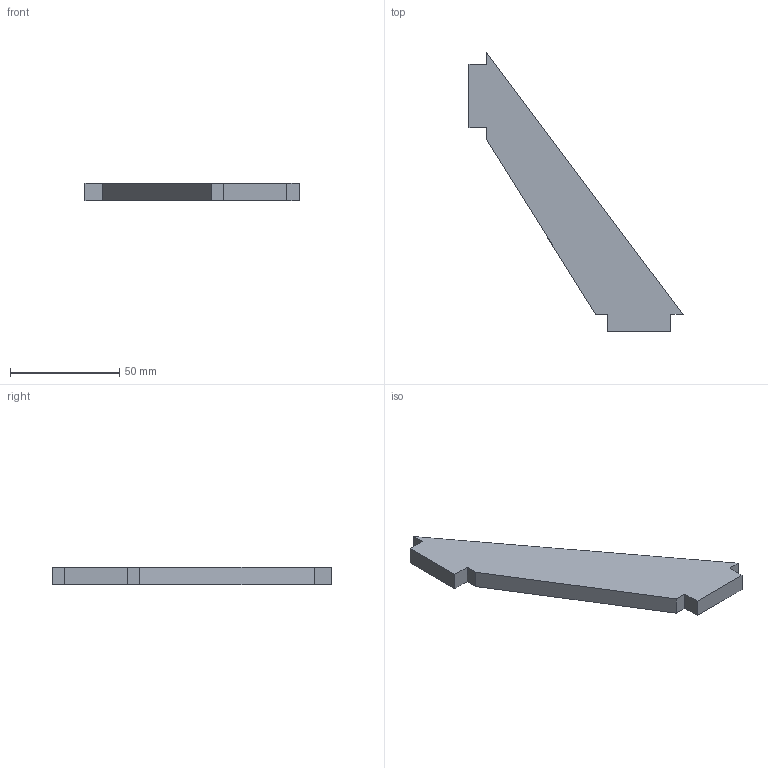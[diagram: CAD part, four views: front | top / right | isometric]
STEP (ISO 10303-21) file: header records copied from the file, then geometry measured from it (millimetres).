
FILE_DESCRIPTION(/* description */ (''),/* implementation_level */ '2;1');
FILE_NAME(/* name */ 'Holder_part_5c_ver_2.step',/* time_stamp */ '2026-07-24T14:35:04+02:00',/* author */ ('dariu'),/* organization */ (''),/* preprocessor_version */ 'ST-DEVELOPER v20.1',/* originating_system */ 'Autodesk Inventor 2026',/* authorisation */ '');
FILE_SCHEMA (('AUTOMOTIVE_DESIGN { 1 0 10303 214 3 1 1 }'));
Length unit declared in the file: millimetre
Products named in the file (1): Holder_part_5c_ver_2
Bounding box: 98 x 128 x 8 mm (x, y, z)
Volume: 30912 mm3; surface area: 10578.7 mm2
Topology: 1 solids, 1 shells, 14 faces, 36 edges, 24 vertices
Faces by surface type: plane 14
Entity records: 463 total; most frequent: CARTESIAN_POINT 75, ORIENTED_EDGE 72, DIRECTION 66, LINE 36, VECTOR 36, EDGE_CURVE 36, VERTEX_POINT 24, AXIS2_PLACEMENT_3D 15
